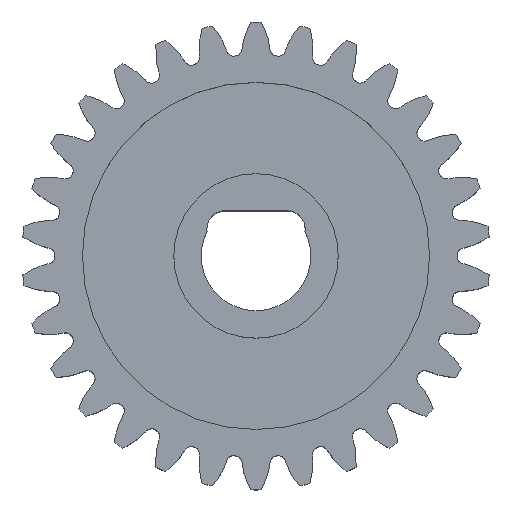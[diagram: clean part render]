
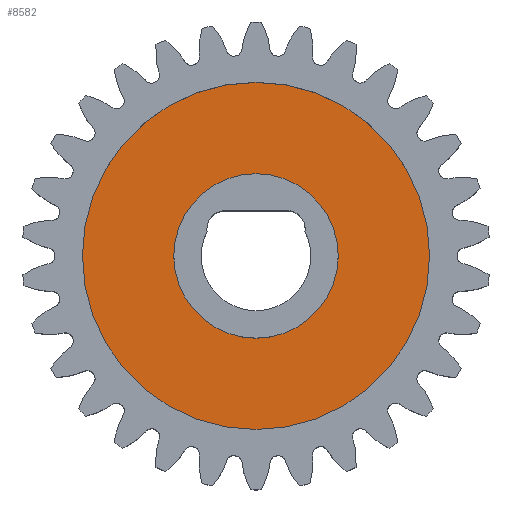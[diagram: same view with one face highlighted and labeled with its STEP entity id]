
A CAD part, top view. The second image highlights one B-rep face of the part: STEP entity #8582.
In plain terms, the highlighted planar face has unit normal (0, 0, 1).
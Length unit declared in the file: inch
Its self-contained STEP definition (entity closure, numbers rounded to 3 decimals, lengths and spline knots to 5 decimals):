
#199 = CARTESIAN_POINT ( 'NONE',  ( 0., 0., 0.11811 ) ) ;
#1062 = DIRECTION ( 'NONE',  ( 1., 0., 0. ) ) ;
#1126 = FACE_OUTER_BOUND ( 'NONE', #11194, .T. ) ;
#1601 = DIRECTION ( 'NONE',  ( 0., 0., 1. ) ) ;
#2915 = EDGE_CURVE ( 'NONE', #12887, #8944, #11803, .T. ) ;
#2978 = AXIS2_PLACEMENT_3D ( 'NONE', #8767, #17226, #8589 ) ;
#3261 = ORIENTED_EDGE ( 'NONE', *, *, #4029, .T. ) ;
#3734 = AXIS2_PLACEMENT_3D ( 'NONE', #9716, #8251, #1062 ) ;
#3883 = CIRCLE ( 'NONE', #8165, 0.37402 ) ;
#4029 = EDGE_CURVE ( 'NONE', #4860, #9164, #3883, .T. ) ;
#4183 = EDGE_CURVE ( 'NONE', #9164, #4860, #4541, .T. ) ;
#4541 = CIRCLE ( 'NONE', #2978, 0.37402 ) ;
#4860 = VERTEX_POINT ( 'NONE', #13860 ) ;
#4877 = ORIENTED_EDGE ( 'NONE', *, *, #2915, .F. ) ;
#5160 = DIRECTION ( 'NONE',  ( 1., 0., 0. ) ) ;
#8004 = CARTESIAN_POINT ( 'NONE',  ( 0., 0., 0.11811 ) ) ;
#8165 = AXIS2_PLACEMENT_3D ( 'NONE', #16914, #11311, #9802 ) ;
#8251 = DIRECTION ( 'NONE',  ( 0., 0., 1. ) ) ;
#8577 = CIRCLE ( 'NONE', #11917, 0.17717 ) ;
#8582 = ADVANCED_FACE ( 'NONE', ( #14665, #1126 ), #16889, .T. ) ;
#8589 = DIRECTION ( 'NONE',  ( 1., 0., 0. ) ) ;
#8767 = CARTESIAN_POINT ( 'NONE',  ( 0., 0., 0.11811 ) ) ;
#8944 = VERTEX_POINT ( 'NONE', #15598 ) ;
#8967 = DIRECTION ( 'NONE',  ( 1., 0., 0. ) ) ;
#9164 = VERTEX_POINT ( 'NONE', #14704 ) ;
#9716 = CARTESIAN_POINT ( 'NONE',  ( 0., 0., 0.11811 ) ) ;
#9802 = DIRECTION ( 'NONE',  ( 1., 0., 0. ) ) ;
#10927 = CARTESIAN_POINT ( 'NONE',  ( 0.17717, 0., 0.11811 ) ) ;
#11194 = EDGE_LOOP ( 'NONE', ( #14848, #3261 ) ) ;
#11311 = DIRECTION ( 'NONE',  ( 0., 0., 1. ) ) ;
#11803 = CIRCLE ( 'NONE', #17336, 0.17717 ) ;
#11917 = AXIS2_PLACEMENT_3D ( 'NONE', #199, #1601, #8967 ) ;
#12887 = VERTEX_POINT ( 'NONE', #10927 ) ;
#13860 = CARTESIAN_POINT ( 'NONE',  ( -0.37402, 0., 0.11811 ) ) ;
#14560 = ORIENTED_EDGE ( 'NONE', *, *, #16262, .F. ) ;
#14665 = FACE_BOUND ( 'NONE', #16436, .T. ) ;
#14704 = CARTESIAN_POINT ( 'NONE',  ( 0.37402, 0., 0.11811 ) ) ;
#14848 = ORIENTED_EDGE ( 'NONE', *, *, #4183, .T. ) ;
#15598 = CARTESIAN_POINT ( 'NONE',  ( -0.17717, 0., 0.11811 ) ) ;
#16262 = EDGE_CURVE ( 'NONE', #8944, #12887, #8577, .T. ) ;
#16436 = EDGE_LOOP ( 'NONE', ( #4877, #14560 ) ) ;
#16889 = PLANE ( 'NONE',  #3734 ) ;
#16914 = CARTESIAN_POINT ( 'NONE',  ( 0., 0., 0.11811 ) ) ;
#17226 = DIRECTION ( 'NONE',  ( 0., 0., 1. ) ) ;
#17336 = AXIS2_PLACEMENT_3D ( 'NONE', #8004, #18093, #5160 ) ;
#18093 = DIRECTION ( 'NONE',  ( 0., 0., 1. ) ) ;
